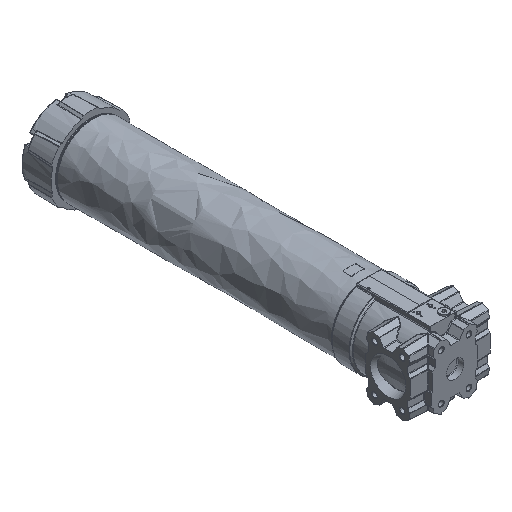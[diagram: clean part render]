
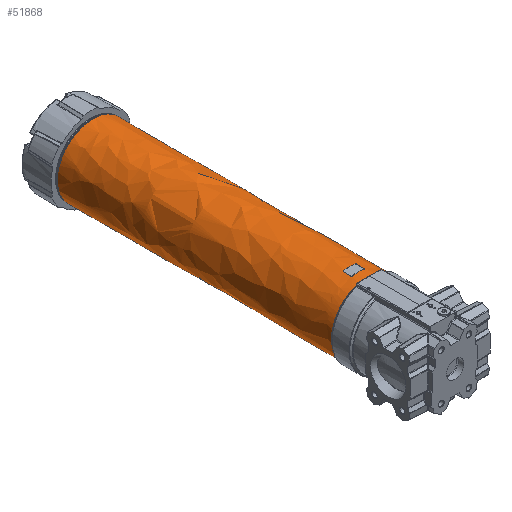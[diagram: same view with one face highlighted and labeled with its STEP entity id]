
A CAD part, isometric view. The second image highlights one B-rep face of the part: STEP entity #51868.
In plain terms, the highlighted free-form (B-spline) face has degree [2, 1] with [7, 2] control points.
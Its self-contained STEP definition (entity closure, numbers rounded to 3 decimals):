
#78=CARTESIAN_POINT('V1400',(18.224,53.0,
   98.325));
#79=VERTEX_POINT('V1400',#78);
#94=CARTESIAN_POINT('V1402',(18.224,32.0,
   98.325));
#95=VERTEX_POINT('V1402',#94);
#101=CARTESIAN_POINT('E2507',(18.224,53.0,
   98.325));
#102=CARTESIAN_POINT('E2507',(18.224,32.0,
   98.325));
#103=B_SPLINE_CURVE_WITH_KNOTS('E2507',1,(#101,#102),.POLYLINE_FORM.,
   .F.,.U.,(2,2),(5.,57.5),
   .UNSPECIFIED.);
#104=EDGE_CURVE('E2507',#79,#95,#103,.T.);
#134=CARTESIAN_POINT('V1401',(16.253,30.0,
   98.67));
#135=VERTEX_POINT('V1401',#134);
#141=CARTESIAN_POINT('E2497',(18.224,32.0,
   98.325));
#142=CARTESIAN_POINT('E2497',(18.224,31.599,
   98.325));
#143=CARTESIAN_POINT('E2497',(18.032,30.961,
   98.359));
#144=CARTESIAN_POINT('E2497',(17.278,30.194,
   98.493));
#145=CARTESIAN_POINT('E2497',(16.649,30.0,
   98.605));
#146=CARTESIAN_POINT('E2497',(16.253,30.0,
   98.67));
#147=B_SPLINE_CURVE_WITH_KNOTS('E2497',3,(#141,#142,#143,#144,#145,
   #146),.UNSPECIFIED.,.F.,.U.,(4,1,1,4),(0.0,0.001,
   0.002,0.003),.UNSPECIFIED.);
#148=EDGE_CURVE('E2497',#95,#135,#147,.T.);
#175=CARTESIAN_POINT('V1405',(-16.253,30.0,
   98.67));
#176=VERTEX_POINT('V1405',#175);
#182=CARTESIAN_POINT('E2505',(16.253,30.0,
   98.67));
#183=CARTESIAN_POINT('E2505',(0.,30.0,
   101.348));
#184=CARTESIAN_POINT('E2505',(-16.253,30.0,
   98.67));
#192=(BOUNDED_CURVE()B_SPLINE_CURVE(2,(#182,#183,#184),
   .CIRCULAR_ARC.,.F.,.U.)B_SPLINE_CURVE_WITH_KNOTS((3,3),(
   0.081,1.401),.UNSPECIFIED.)CURVE()
   GEOMETRIC_REPRESENTATION_ITEM()RATIONAL_B_SPLINE_CURVE((
   0.998,0.985,0.998))
   REPRESENTATION_ITEM('E2505'));
#193=EDGE_CURVE('E2505',#135,#176,#192,.T.);
#212=CARTESIAN_POINT('V1406',(-18.224,32.0,
   98.325));
#213=VERTEX_POINT('V1406',#212);
#214=CARTESIAN_POINT('E2502',(-16.253,30.0,
   98.67));
#215=CARTESIAN_POINT('E2502',(-16.649,30.0,
   98.605));
#216=CARTESIAN_POINT('E2502',(-17.278,30.194,
   98.493));
#217=CARTESIAN_POINT('E2502',(-18.032,30.961,
   98.359));
#218=CARTESIAN_POINT('E2502',(-18.224,31.599,
   98.325));
#219=CARTESIAN_POINT('E2502',(-18.224,32.0,
   98.325));
#220=B_SPLINE_CURVE_WITH_KNOTS('E2502',3,(#214,#215,#216,#217,#218,
   #219),.UNSPECIFIED.,.F.,.U.,(4,1,1,4),(0.0,0.001,
   0.002,0.003),.UNSPECIFIED.);
#221=EDGE_CURVE('E2502',#176,#213,#220,.T.);
#250=CARTESIAN_POINT('V1404',(-18.224,53.0,
   98.325));
#251=VERTEX_POINT('V1404',#250);
#257=CARTESIAN_POINT('E2508',(-18.224,32.0,
   98.325));
#258=CARTESIAN_POINT('E2508',(-18.224,53.0,
   98.325));
#259=B_SPLINE_CURVE_WITH_KNOTS('E2508',1,(#257,#258),.POLYLINE_FORM.,
   .F.,.U.,(2,2),(5.,57.5),
   .UNSPECIFIED.);
#260=EDGE_CURVE('E2508',#213,#251,#259,.T.);
#343=CARTESIAN_POINT('V1403',(-16.253,55.0,
   98.67));
#344=VERTEX_POINT('V1403',#343);
#350=CARTESIAN_POINT('E2500',(-18.224,53.0,
   98.325));
#351=CARTESIAN_POINT('E2500',(-18.224,53.401,
   98.325));
#352=CARTESIAN_POINT('E2500',(-18.032,54.039,
   98.359));
#353=CARTESIAN_POINT('E2500',(-17.278,54.806,
   98.493));
#354=CARTESIAN_POINT('E2500',(-16.649,55.0,
   98.605));
#355=CARTESIAN_POINT('E2500',(-16.253,55.0,
   98.67));
#356=B_SPLINE_CURVE_WITH_KNOTS('E2500',3,(#350,#351,#352,#353,#354,
   #355),.UNSPECIFIED.,.F.,.U.,(4,1,1,4),(0.0,0.001,
   0.002,0.003),.UNSPECIFIED.);
#357=EDGE_CURVE('E2500',#251,#344,#356,.T.);
#368=CARTESIAN_POINT('V1399',(16.253,55.0,
   98.67));
#369=VERTEX_POINT('V1399',#368);
#375=CARTESIAN_POINT('E2506',(-16.253,55.0,
   98.67));
#376=CARTESIAN_POINT('E2506',(0.,55.0,
   101.348));
#377=CARTESIAN_POINT('E2506',(16.253,55.0,
   98.67));
#385=(BOUNDED_CURVE()B_SPLINE_CURVE(2,(#375,#376,#377),
   .CIRCULAR_ARC.,.F.,.U.)B_SPLINE_CURVE_WITH_KNOTS((3,3),(
   0.081,1.401),.UNSPECIFIED.)CURVE()
   GEOMETRIC_REPRESENTATION_ITEM()RATIONAL_B_SPLINE_CURVE((
   0.998,0.985,0.998))
   REPRESENTATION_ITEM('E2506'));
#386=EDGE_CURVE('E2506',#344,#369,#385,.T.);
#407=CARTESIAN_POINT('E2493',(16.253,55.0,
   98.67));
#408=CARTESIAN_POINT('E2493',(16.649,55.0,
   98.605));
#409=CARTESIAN_POINT('E2493',(17.278,54.806,
   98.493));
#410=CARTESIAN_POINT('E2493',(18.032,54.039,
   98.359));
#411=CARTESIAN_POINT('E2493',(18.224,53.401,
   98.325));
#412=CARTESIAN_POINT('E2493',(18.224,53.0,
   98.325));
#413=B_SPLINE_CURVE_WITH_KNOTS('E2493',3,(#407,#408,#409,#410,#411,
   #412),.UNSPECIFIED.,.F.,.U.,(4,1,1,4),(0.0,0.001,
   0.002,0.003),.UNSPECIFIED.);
#414=EDGE_CURVE('E2493',#369,#79,#413,.T.);
#21183=CARTESIAN_POINT('V28',(0.,777.5,
   -100.));
#21184=VERTEX_POINT('V28',#21183);
#21185=CARTESIAN_POINT('E42',(0.,777.5,
   -100.));
#21186=CARTESIAN_POINT('E42',(173.205,
   777.5,-100.));
#21187=CARTESIAN_POINT('E42',(86.603,777.5,
   50.));
#21188=CARTESIAN_POINT('E42',(0.,777.5,
   200.));
#21189=CARTESIAN_POINT('E42',(-86.603,
   777.5,50.));
#21190=CARTESIAN_POINT('E42',(-173.205,
   777.5,-100.));
#21191=CARTESIAN_POINT('E42',(0.,777.5,
   -100.));
#21199=(BOUNDED_CURVE()B_SPLINE_CURVE(2,(#21185,#21186,#21187,
   #21188,#21189,#21190,#21191),.CIRCULAR_ARC.,.T.,.U.)
   B_SPLINE_CURVE_WITH_KNOTS((3,2,2,3),(0.0,0.897,
   1.794,2.691),.UNSPECIFIED.)CURVE()
   GEOMETRIC_REPRESENTATION_ITEM()RATIONAL_B_SPLINE_CURVE((1.0,
   0.5,1.0,0.5,1.0,0.5,1.0)
   )REPRESENTATION_ITEM('E42'));
#21200=EDGE_CURVE('E42',#21184,#21184,#21199,.T.);
#51801=CARTESIAN_POINT('V32',(0.,5.,
   -100.));
#51802=VERTEX_POINT('V32',#51801);
#51803=CARTESIAN_POINT('E47',(0.,5.,
   -100.));
#51804=CARTESIAN_POINT('E47',(-173.205,5.,
   -100.));
#51805=CARTESIAN_POINT('E47',(-86.603,5.,
   50.));
#51806=CARTESIAN_POINT('E47',(0.,5.,
   200.));
#51807=CARTESIAN_POINT('E47',(86.603,5.,
   50.));
#51808=CARTESIAN_POINT('E47',(173.205,5.,
   -100.));
#51809=CARTESIAN_POINT('E47',(0.,5.,
   -100.));
#51817=(BOUNDED_CURVE()B_SPLINE_CURVE(2,(#51803,#51804,#51805,
   #51806,#51807,#51808,#51809),.CIRCULAR_ARC.,.T.,.U.)
   B_SPLINE_CURVE_WITH_KNOTS((3,2,2,3),(0.0,0.897,
   1.794,2.691),.UNSPECIFIED.)CURVE()
   GEOMETRIC_REPRESENTATION_ITEM()RATIONAL_B_SPLINE_CURVE((1.0,
   0.5,1.0,0.5,1.0,0.5,1.0)
   )REPRESENTATION_ITEM('E47'));
#51818=EDGE_CURVE('E47',#51802,#51802,#51817,.T.);
#51826=CARTESIAN_POINT('F1054',(0.,4.9,
   -100.));
#51827=CARTESIAN_POINT('F1054',(-173.205,
   4.9,-100.));
#51828=CARTESIAN_POINT('F1054',(-86.603,
   4.9,50.));
#51829=CARTESIAN_POINT('F1054',(0.,4.9,
   200.));
#51830=CARTESIAN_POINT('F1054',(86.603,4.9,
   50.));
#51831=CARTESIAN_POINT('F1054',(173.205,
   4.9,-100.));
#51832=CARTESIAN_POINT('F1054',(0.,4.9,
   -100.));
#51833=CARTESIAN_POINT('F1054',(0.,
   777.6,-100.));
#51834=CARTESIAN_POINT('F1054',(-173.205,
   777.6,-100.));
#51835=CARTESIAN_POINT('F1054',(-86.603,
   777.6,50.));
#51836=CARTESIAN_POINT('F1054',(0.,
   777.6,200.));
#51837=CARTESIAN_POINT('F1054',(86.603,
   777.6,50.));
#51838=CARTESIAN_POINT('F1054',(173.205,
   777.6,-100.));
#51839=CARTESIAN_POINT('F1054',(0.,
   777.6,-100.));
#51847=(BOUNDED_SURFACE()B_SPLINE_SURFACE(2,1,((#51826,#51833),(
   #51827,#51834),(#51828,#51835),(#51829,#51836),(#51830,
   #51837),(#51831,#51838),(#51832,#51839)),.CYLINDRICAL_SURF.,
   .T.,.F.,.U.)B_SPLINE_SURFACE_WITH_KNOTS((3,2,2,3),(2,2),(0.0,
   0.448,0.897,1.345),(0.0,1.0),
   .UNSPECIFIED.)GEOMETRIC_REPRESENTATION_ITEM()
   RATIONAL_B_SPLINE_SURFACE(((1.0,1.0),(0.5,
   0.5),(1.0,1.0),(0.5,
   0.5),(1.0,1.0),(0.5,
   0.5),(1.0,1.0)))REPRESENTATION_ITEM('F1054')
   SURFACE());
#51848=ORIENTED_EDGE('F20',*,*,#51818,.T.);
#51849=CARTESIAN_POINT('E2509',(0.,5.,
   -100.));
#51850=CARTESIAN_POINT('E2509',(0.,
   777.5,-100.));
#51851=B_SPLINE_CURVE_WITH_KNOTS('E2509',1,(#51849,#51850),
   .POLYLINE_FORM.,.F.,.U.,(2,2),(0.,
   1.),.UNSPECIFIED.);
#51852=EDGE_CURVE('E2509',#51802,#21184,#51851,.T.);
#51853=ORIENTED_EDGE('E2509',*,*,#51852,.T.);
#51854=ORIENTED_EDGE('F18',*,*,#21200,.T.);
#51855=ORIENTED_EDGE('E2509',*,*,#51852,.F.);
#51856=EDGE_LOOP('F1054',(#51848,#51853,#51854,#51855));
#51857=FACE_OUTER_BOUND('F1054',#51856,.T.);
#51858=ORIENTED_EDGE('E2493',*,*,#414,.T.);
#51859=ORIENTED_EDGE('F1052',*,*,#104,.T.);
#51860=ORIENTED_EDGE('E2497',*,*,#148,.T.);
#51861=ORIENTED_EDGE('F1050',*,*,#193,.T.);
#51862=ORIENTED_EDGE('E2502',*,*,#221,.T.);
#51863=ORIENTED_EDGE('E2508',*,*,#260,.T.);
#51864=ORIENTED_EDGE('E2500',*,*,#357,.T.);
#51865=ORIENTED_EDGE('E2506',*,*,#386,.T.);
#51866=EDGE_LOOP('F1054',(#51858,#51859,#51860,#51861,#51862,#51863,
   #51864,#51865));
#51867=FACE_BOUND('F1054',#51866,.T.);
#51868=ADVANCED_FACE('F1054',(#51857,#51867),#51847,.T.);
